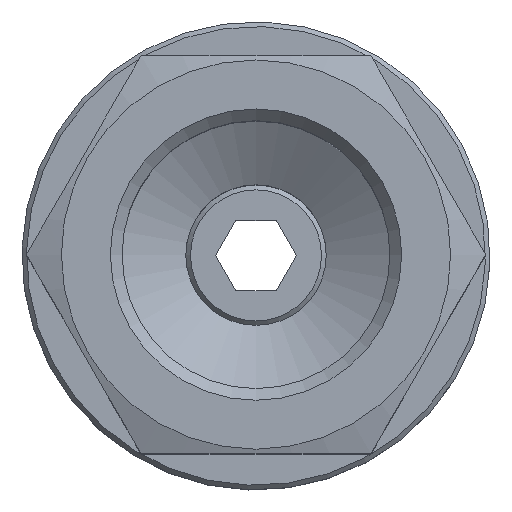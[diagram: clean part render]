
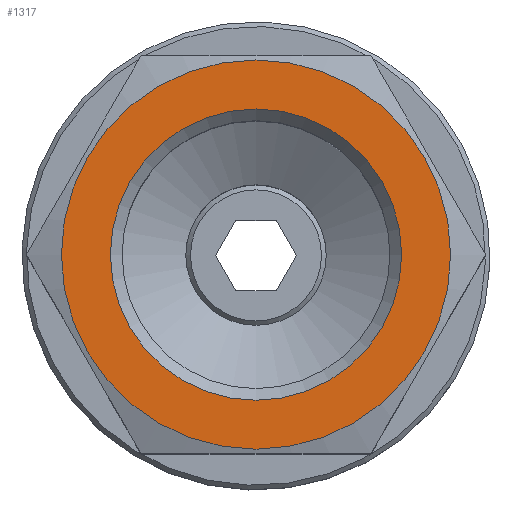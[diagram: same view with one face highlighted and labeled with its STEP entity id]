
A CAD part, top view. The second image highlights one B-rep face of the part: STEP entity #1317.
In plain terms, the highlighted planar face has unit normal (0, 0, 1).
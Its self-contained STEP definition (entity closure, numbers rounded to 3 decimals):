
#1000=CARTESIAN_POINT('',(-8.315,0.0,17.5));
#1001=VERTEX_POINT('',#1000);
#1002=CARTESIAN_POINT('',(0.0,0.0,17.5));
#1003=DIRECTION('',(0.0,0.0,1.0));
#1004=DIRECTION('',(-1.0,0.0,0.0));
#1005=AXIS2_PLACEMENT_3D('',#1002,#1003,#1004);
#1006=CIRCLE('',#1005,8.315);
#1007=EDGE_CURVE('',#1001,#1001,#1006,.T.);
#1253=CARTESIAN_POINT('',(6.223,0.,17.5));
#1254=VERTEX_POINT('',#1253);
#1255=CARTESIAN_POINT('',(0.0,0.0,17.5));
#1256=DIRECTION('',(0.0,0.0,1.0));
#1257=DIRECTION('',(-1.0,0.0,0.0));
#1258=AXIS2_PLACEMENT_3D('',#1255,#1256,#1257);
#1259=CIRCLE('',#1258,6.223);
#1260=EDGE_CURVE('',#1254,#1254,#1259,.T.);
#1306=CARTESIAN_POINT('',(0.,0.,17.5));
#1307=DIRECTION('',(0.0,0.0,1.0));
#1308=DIRECTION('',(1.0,0.0,0.0));
#1309=AXIS2_PLACEMENT_3D('',#1306,#1307,#1308);
#1310=PLANE('',#1309);
#1311=ORIENTED_EDGE('',*,*,#1007,.T.);
#1312=EDGE_LOOP('',(#1311));
#1313=FACE_OUTER_BOUND('',#1312,.T.);
#1314=ORIENTED_EDGE('',*,*,#1260,.F.);
#1315=EDGE_LOOP('',(#1314));
#1316=FACE_BOUND('',#1315,.T.);
#1317=ADVANCED_FACE('',(#1313,#1316),#1310,.T.);
